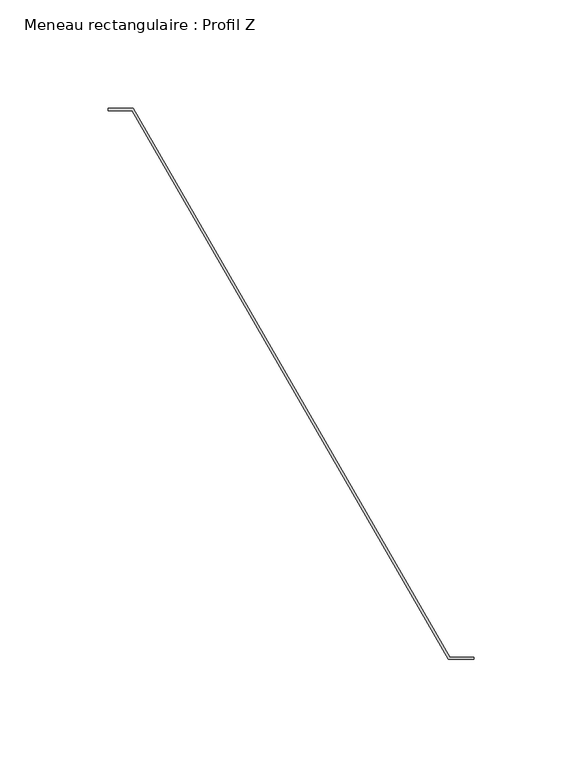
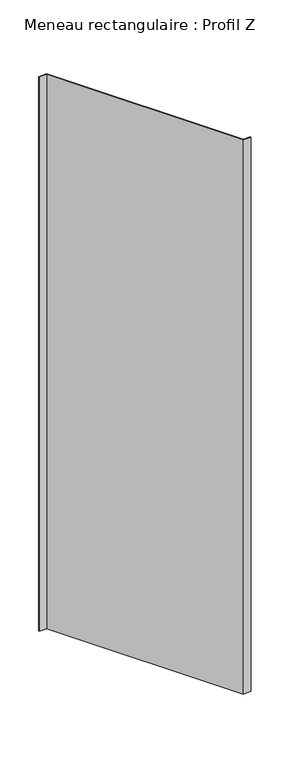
"""IFC4 building model written with IfcOpenShell, lengths in millimetres: member geometry, Meneau rectangulaire : Profil Z."""

from ifc_helpers import new_model, si_unit, frame, origin, place, context, project, spatial, polyline, outline, extrude, source, transform, mapped, element, save


def meneau_rectangulaire_profil_z_2c9b5040(model_context):
    return source(origin(), model_context, "Body", "SweptSolid", [
        extrude(outline(polyline([(72.7461339, -87.0), (-73.3234842, 166.0), (-84.2931393, 166.0), (-84.2931393, 167.0), (-72.7461339, 167.0), (73.3234842, -86.0), (84.2931393, -86.0), (84.2931393, -87.0), (72.7461339, -87.0)])), frame((0.0, 0.0, -870.0), z_axis=(0.0, 0.0, 1.0), x_axis=(1.0, 0.0, 0.0)), (0.0, 0.0, 1.0), 870.0),
    ])


if __name__ == "__main__":
    model = new_model("IFC4")
    model_context = context("Model", 3, world=origin())
    ifc_project = project(units=[si_unit("LENGTHUNIT", "METRE", prefix="MILLI")], contexts=[model_context])
    site = spatial("IfcSite", under=ifc_project)
    building = spatial("IfcBuilding", under=site)
    placement = place(None, origin())
    meneau_rectangulaire_profil_z_shape = meneau_rectangulaire_profil_z_2c9b5040(model_context)
    element("IfcMember", 1, ObjectType="Meneau rectangulaire : Profil Z", at=placement, inside=building, context=model_context, shape_type="MappedRepresentation", body=[
        mapped(meneau_rectangulaire_profil_z_shape, transform((0.0, 0.0, 0.0), x_axis=(1.0, 0.0, 0.0), y_axis=(0.0, 1.0, 0.0), z_axis=(0.0, 0.0, 1.0))),
    ])
    save(model, "model.ifc")
